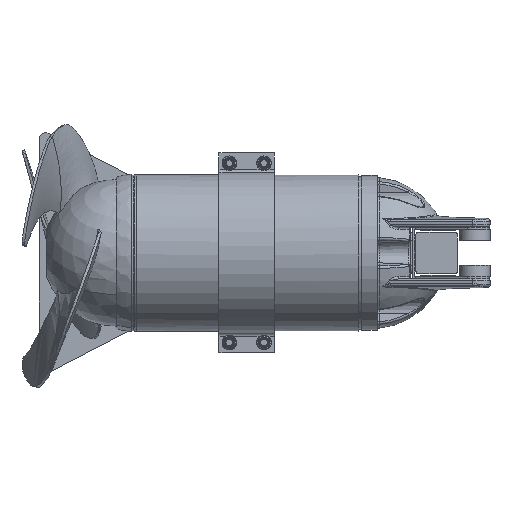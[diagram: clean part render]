
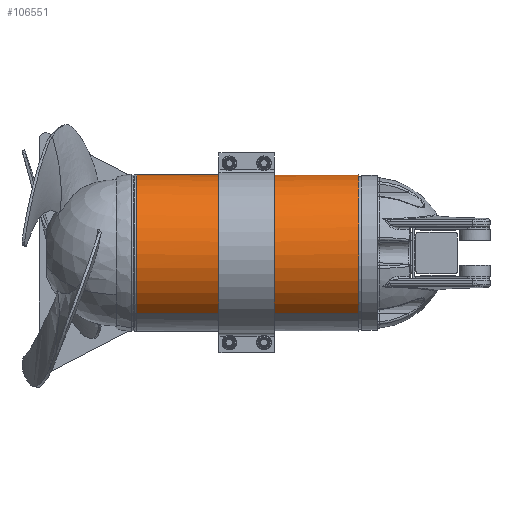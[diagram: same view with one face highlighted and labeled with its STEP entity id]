
A CAD part, front view. The second image highlights one B-rep face of the part: STEP entity #106551.
In plain terms, the highlighted cylindrical face has radius 113 mm (diameter 226 mm), a partial arc.
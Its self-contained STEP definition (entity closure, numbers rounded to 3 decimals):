
#197 = CARTESIAN_POINT ( 'NONE',  ( -320.175, 71.501, 87.502 ) ) ;
#415 = EDGE_CURVE ( 'NONE', #12367, #119517, #94132, .T. ) ;
#1910 = ORIENTED_EDGE ( 'NONE', *, *, #68454, .T. ) ;
#2504 = CARTESIAN_POINT ( 'NONE',  ( -121.6, 0., 0. ) ) ;
#2586 = DIRECTION ( 'NONE',  ( 0., 0.633, 0.774 ) ) ;
#3190 = CARTESIAN_POINT ( 'NONE',  ( 0., -71.501, -87.502 ) ) ;
#3838 = CIRCLE ( 'NONE', #43357, 113. ) ;
#4711 = CARTESIAN_POINT ( 'NONE',  ( -380.446, 71.501, 87.502 ) ) ;
#7828 = CARTESIAN_POINT ( 'NONE',  ( -380.446, -71.501, -87.502 ) ) ;
#10558 = DIRECTION ( 'NONE',  ( 0., 0., -1. ) ) ;
#12367 = VERTEX_POINT ( 'NONE', #3190 ) ;
#13328 = ORIENTED_EDGE ( 'NONE', *, *, #138384, .T. ) ;
#13386 = CARTESIAN_POINT ( 'NONE',  ( -380.446, 71.501, 87.502 ) ) ;
#13457 = DIRECTION ( 'NONE',  ( 0., 0., 1. ) ) ;
#16480 = CARTESIAN_POINT ( 'NONE',  ( -121.6, 5.743, 112.854 ) ) ;
#17401 = VECTOR ( 'NONE', #61706, 1000. ) ;
#18091 = ORIENTED_EDGE ( 'NONE', *, *, #19676, .T. ) ;
#18705 = ORIENTED_EDGE ( 'NONE', *, *, #119069, .F. ) ;
#18991 = CARTESIAN_POINT ( 'NONE',  ( -380.446, -71.501, -87.502 ) ) ;
#19273 = CARTESIAN_POINT ( 'NONE',  ( -320.175, 0., 0. ) ) ;
#19676 = EDGE_CURVE ( 'NONE', #66107, #141107, #32099, .T. ) ;
#22110 = AXIS2_PLACEMENT_3D ( 'NONE', #109326, #43917, #120338 ) ;
#22752 = EDGE_CURVE ( 'NONE', #43539, #119517, #65867, .T. ) ;
#24343 = DIRECTION ( 'NONE',  ( -1., 0., 0. ) ) ;
#25134 = ORIENTED_EDGE ( 'NONE', *, *, #42288, .T. ) ;
#26623 = DIRECTION ( 'NONE',  ( -1., 0., 0. ) ) ;
#28731 = CIRCLE ( 'NONE', #22110, 113. ) ;
#28872 = CARTESIAN_POINT ( 'NONE',  ( -201.6, -71.501, -87.502 ) ) ;
#29033 = VECTOR ( 'NONE', #24343, 1000. ) ;
#30248 = DIRECTION ( 'NONE',  ( 0., 0., -1. ) ) ;
#32099 = LINE ( 'NONE', #4711, #42253 ) ;
#32474 = LINE ( 'NONE', #13386, #29033 ) ;
#33284 = DIRECTION ( 'NONE',  ( -1., 0., 0. ) ) ;
#34025 = AXIS2_PLACEMENT_3D ( 'NONE', #78357, #67397, #2586 ) ;
#34189 = AXIS2_PLACEMENT_3D ( 'NONE', #39377, #115748, #50338 ) ;
#34567 = VERTEX_POINT ( 'NONE', #57339 ) ;
#34568 = CIRCLE ( 'NONE', #34189, 113. ) ;
#34630 = EDGE_LOOP ( 'NONE', ( #83544, #100635, #1910, #37829, #87084, #25134, #18091, #13328, #52015, #130124, #18705, #89217, #82471 ) ) ;
#37692 = CARTESIAN_POINT ( 'NONE',  ( -161.6, 5.743, 112.854 ) ) ;
#37829 = ORIENTED_EDGE ( 'NONE', *, *, #67940, .F. ) ;
#39377 = CARTESIAN_POINT ( 'NONE',  ( -320.175, 0., 0. ) ) ;
#39442 = VECTOR ( 'NONE', #46268, 1000. ) ;
#40780 = CARTESIAN_POINT ( 'NONE',  ( -121.6, -5.743, 112.854 ) ) ;
#42253 = VECTOR ( 'NONE', #26623, 1000. ) ;
#42288 = EDGE_CURVE ( 'NONE', #107959, #66107, #3838, .T. ) ;
#43073 = VERTEX_POINT ( 'NONE', #16480 ) ;
#43357 = AXIS2_PLACEMENT_3D ( 'NONE', #98572, #33284, #109654 ) ;
#43539 = VERTEX_POINT ( 'NONE', #40780 ) ;
#43917 = DIRECTION ( 'NONE',  ( -1., 0., 0. ) ) ;
#45472 = CARTESIAN_POINT ( 'NONE',  ( -201.6, 0., 0. ) ) ;
#46268 = DIRECTION ( 'NONE',  ( -1., 0., 0. ) ) ;
#48583 = EDGE_CURVE ( 'NONE', #43539, #73475, #126606, .T. ) ;
#50338 = DIRECTION ( 'NONE',  ( 0., 0., -1. ) ) ;
#52015 = ORIENTED_EDGE ( 'NONE', *, *, #110402, .T. ) ;
#56459 = DIRECTION ( 'NONE',  ( 0., 0., 1. ) ) ;
#57339 = CARTESIAN_POINT ( 'NONE',  ( -121.6, 71.501, 87.502 ) ) ;
#59718 = CARTESIAN_POINT ( 'NONE',  ( -121.6, -71.501, -87.502 ) ) ;
#61706 = DIRECTION ( 'NONE',  ( -1., 0., 0. ) ) ;
#61919 = AXIS2_PLACEMENT_3D ( 'NONE', #2504, #78745, #13457 ) ;
#62174 = CARTESIAN_POINT ( 'NONE',  ( -201.6, 71.501, 87.502 ) ) ;
#65844 = EDGE_CURVE ( 'NONE', #12367, #113683, #28731, .T. ) ;
#65867 = CIRCLE ( 'NONE', #61919, 113. ) ;
#66107 = VERTEX_POINT ( 'NONE', #62174 ) ;
#67397 = DIRECTION ( 'NONE',  ( -1., 0., 0. ) ) ;
#67940 = EDGE_CURVE ( 'NONE', #43073, #34567, #131767, .T. ) ;
#68454 = EDGE_CURVE ( 'NONE', #113683, #34567, #32474, .T. ) ;
#68766 = EDGE_CURVE ( 'NONE', #107959, #43073, #97152, .T. ) ;
#70811 = VERTEX_POINT ( 'NONE', #137745 ) ;
#73475 = VERTEX_POINT ( 'NONE', #122476 ) ;
#75828 = DIRECTION ( 'NONE',  ( -1., 0., 0. ) ) ;
#78357 = CARTESIAN_POINT ( 'NONE',  ( -380.446, 0., 0. ) ) ;
#78745 = DIRECTION ( 'NONE',  ( 1., 0., 0. ) ) ;
#82471 = ORIENTED_EDGE ( 'NONE', *, *, #22752, .T. ) ;
#83544 = ORIENTED_EDGE ( 'NONE', *, *, #415, .F. ) ;
#84629 = CIRCLE ( 'NONE', #117420, 113. ) ;
#87084 = ORIENTED_EDGE ( 'NONE', *, *, #68766, .F. ) ;
#89217 = ORIENTED_EDGE ( 'NONE', *, *, #48583, .F. ) ;
#94012 = VECTOR ( 'NONE', #106608, 1000. ) ;
#94132 = LINE ( 'NONE', #18991, #94012 ) ;
#95526 = DIRECTION ( 'NONE',  ( 1., 0., 0. ) ) ;
#97152 = LINE ( 'NONE', #37692, #126383 ) ;
#98572 = CARTESIAN_POINT ( 'NONE',  ( -201.6, 0., 0. ) ) ;
#100635 = ORIENTED_EDGE ( 'NONE', *, *, #65844, .T. ) ;
#103010 = DIRECTION ( 'NONE',  ( 1., 0., 0. ) ) ;
#104091 = VERTEX_POINT ( 'NONE', #28872 ) ;
#104477 = LINE ( 'NONE', #7828, #17401 ) ;
#106551 = ADVANCED_FACE ( 'NONE', ( #124680 ), #110970, .T. ) ;
#106608 = DIRECTION ( 'NONE',  ( -1., 0., 0. ) ) ;
#107959 = VERTEX_POINT ( 'NONE', #123188 ) ;
#109326 = CARTESIAN_POINT ( 'NONE',  ( 0., 0., 0. ) ) ;
#109654 = DIRECTION ( 'NONE',  ( 0., 0., -1. ) ) ;
#110402 = EDGE_CURVE ( 'NONE', #119189, #70811, #84629, .T. ) ;
#110908 = CARTESIAN_POINT ( 'NONE',  ( -320.175, 35.929, 107.136 ) ) ;
#110970 = CYLINDRICAL_SURFACE ( 'NONE', #34025, 113. ) ;
#113683 = VERTEX_POINT ( 'NONE', #137725 ) ;
#115748 = DIRECTION ( 'NONE',  ( 1., 0., 0. ) ) ;
#117420 = AXIS2_PLACEMENT_3D ( 'NONE', #19273, #95526, #30248 ) ;
#119069 = EDGE_CURVE ( 'NONE', #73475, #104091, #141315, .T. ) ;
#119189 = VERTEX_POINT ( 'NONE', #110908 ) ;
#119517 = VERTEX_POINT ( 'NONE', #59718 ) ;
#120338 = DIRECTION ( 'NONE',  ( 0., 0.633, 0.774 ) ) ;
#121898 = DIRECTION ( 'NONE',  ( 1., 0., 0. ) ) ;
#122476 = CARTESIAN_POINT ( 'NONE',  ( -201.6, -5.743, 112.854 ) ) ;
#122691 = CARTESIAN_POINT ( 'NONE',  ( -161.6, -5.743, 112.854 ) ) ;
#123188 = CARTESIAN_POINT ( 'NONE',  ( -201.6, 5.743, 112.854 ) ) ;
#124680 = FACE_OUTER_BOUND ( 'NONE', #34630, .T. ) ;
#126383 = VECTOR ( 'NONE', #103010, 1000. ) ;
#126606 = LINE ( 'NONE', #122691, #39442 ) ;
#128366 = AXIS2_PLACEMENT_3D ( 'NONE', #141524, #75828, #10558 ) ;
#130124 = ORIENTED_EDGE ( 'NONE', *, *, #138681, .F. ) ;
#131767 = CIRCLE ( 'NONE', #128366, 113. ) ;
#137725 = CARTESIAN_POINT ( 'NONE',  ( 0., 71.501, 87.502 ) ) ;
#137745 = CARTESIAN_POINT ( 'NONE',  ( -320.175, -71.501, -87.502 ) ) ;
#138203 = AXIS2_PLACEMENT_3D ( 'NONE', #45472, #121898, #56459 ) ;
#138384 = EDGE_CURVE ( 'NONE', #141107, #119189, #34568, .T. ) ;
#138681 = EDGE_CURVE ( 'NONE', #104091, #70811, #104477, .T. ) ;
#141107 = VERTEX_POINT ( 'NONE', #197 ) ;
#141315 = CIRCLE ( 'NONE', #138203, 113. ) ;
#141524 = CARTESIAN_POINT ( 'NONE',  ( -121.6, 0., 0. ) ) ;
